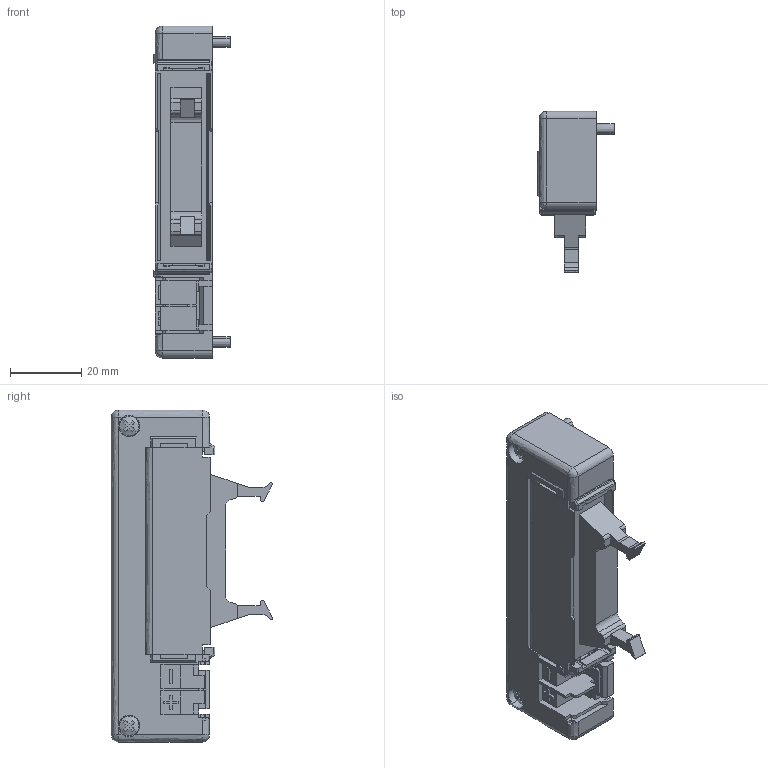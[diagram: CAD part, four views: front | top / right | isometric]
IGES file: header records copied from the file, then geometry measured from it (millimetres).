
Start section: ------------------------------------------------------------------------
Global section: file name: D:\ICADMX\tmp\trans3d_spg\CVICAD32.14756.FZX-F20x_10028.igs; native system: spGate; preprocessor: ver12.6.6; author: Unknown; organization: Unknown; date: 200909.091656; units: millimetre
Bounding box: 21.4 x 45.2 x 93 mm (x, y, z)
Volume: 34802.4 mm3; surface area: 14959.6 mm2
Topology: 2 solids, 2 shells, 415 faces, 1206 edges, 778 vertices
Faces by surface type: bspline 415
